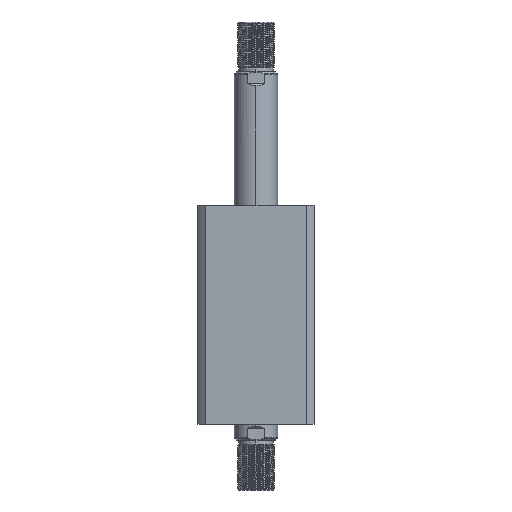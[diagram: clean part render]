
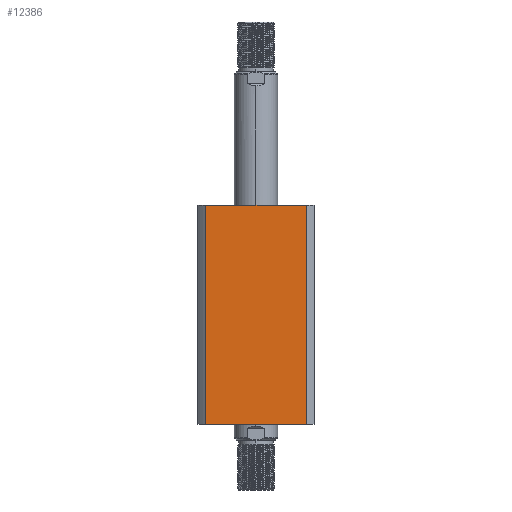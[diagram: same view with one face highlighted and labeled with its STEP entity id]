
A CAD part, left-side view. The second image highlights one B-rep face of the part: STEP entity #12386.
In plain terms, the highlighted planar face has unit normal (-1, 0, 0).
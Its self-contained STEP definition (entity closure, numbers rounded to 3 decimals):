
#648 = PLANE ( 'NONE',  #3819 ) ;
#1718 = CARTESIAN_POINT ( 'NONE',  ( -47., -40.435, 0. ) ) ;
#2013 = EDGE_CURVE ( 'NONE', #16977, #16796, #26908, .T. ) ;
#2316 = ORIENTED_EDGE ( 'NONE', *, *, #12770, .T. ) ;
#2789 = DIRECTION ( 'NONE',  ( 1., 0., 0. ) ) ;
#2821 = CARTESIAN_POINT ( 'NONE',  ( -47., 40.435, 0. ) ) ;
#3819 = AXIS2_PLACEMENT_3D ( 'NONE', #9139, #2789, #17703 ) ;
#4225 = VECTOR ( 'NONE', #16583, 1000. ) ;
#6070 = VECTOR ( 'NONE', #19642, 1000. ) ;
#6778 = LINE ( 'NONE', #17376, #23106 ) ;
#6860 = CARTESIAN_POINT ( 'NONE',  ( -47., 47., 0. ) ) ;
#7416 = FACE_OUTER_BOUND ( 'NONE', #11964, .T. ) ;
#9139 = CARTESIAN_POINT ( 'NONE',  ( -47., 47., 177. ) ) ;
#10971 = EDGE_CURVE ( 'NONE', #11093, #16977, #6778, .T. ) ;
#11093 = VERTEX_POINT ( 'NONE', #2821 ) ;
#11169 = CARTESIAN_POINT ( 'NONE',  ( -47., -40.435, 177. ) ) ;
#11634 = CARTESIAN_POINT ( 'NONE',  ( -47., -40.435, 300. ) ) ;
#11964 = EDGE_LOOP ( 'NONE', ( #12122, #13984, #15602, #2316 ) ) ;
#12122 = ORIENTED_EDGE ( 'NONE', *, *, #14343, .F. ) ;
#12386 = ADVANCED_FACE ( 'NONE', ( #7416 ), #648, .F. ) ;
#12770 = EDGE_CURVE ( 'NONE', #11093, #20725, #15451, .T. ) ;
#13984 = ORIENTED_EDGE ( 'NONE', *, *, #2013, .F. ) ;
#14343 = EDGE_CURVE ( 'NONE', #16796, #20725, #25037, .T. ) ;
#14686 = CARTESIAN_POINT ( 'NONE',  ( -47., 40.435, 177. ) ) ;
#15232 = DIRECTION ( 'NONE',  ( 0., 0., 1. ) ) ;
#15451 = LINE ( 'NONE', #6860, #6070 ) ;
#15602 = ORIENTED_EDGE ( 'NONE', *, *, #10971, .F. ) ;
#16583 = DIRECTION ( 'NONE',  ( 0., -1., 0. ) ) ;
#16796 = VERTEX_POINT ( 'NONE', #11169 ) ;
#16977 = VERTEX_POINT ( 'NONE', #14686 ) ;
#17376 = CARTESIAN_POINT ( 'NONE',  ( -47., 40.435, 300. ) ) ;
#17703 = DIRECTION ( 'NONE',  ( 0., 1., 0. ) ) ;
#19402 = VECTOR ( 'NONE', #20196, 1000. ) ;
#19642 = DIRECTION ( 'NONE',  ( 0., -1., 0. ) ) ;
#20196 = DIRECTION ( 'NONE',  ( 0., 0., -1. ) ) ;
#20725 = VERTEX_POINT ( 'NONE', #1718 ) ;
#20949 = CARTESIAN_POINT ( 'NONE',  ( -47., 47., 177. ) ) ;
#23106 = VECTOR ( 'NONE', #15232, 1000. ) ;
#25037 = LINE ( 'NONE', #11634, #19402 ) ;
#26908 = LINE ( 'NONE', #20949, #4225 ) ;
